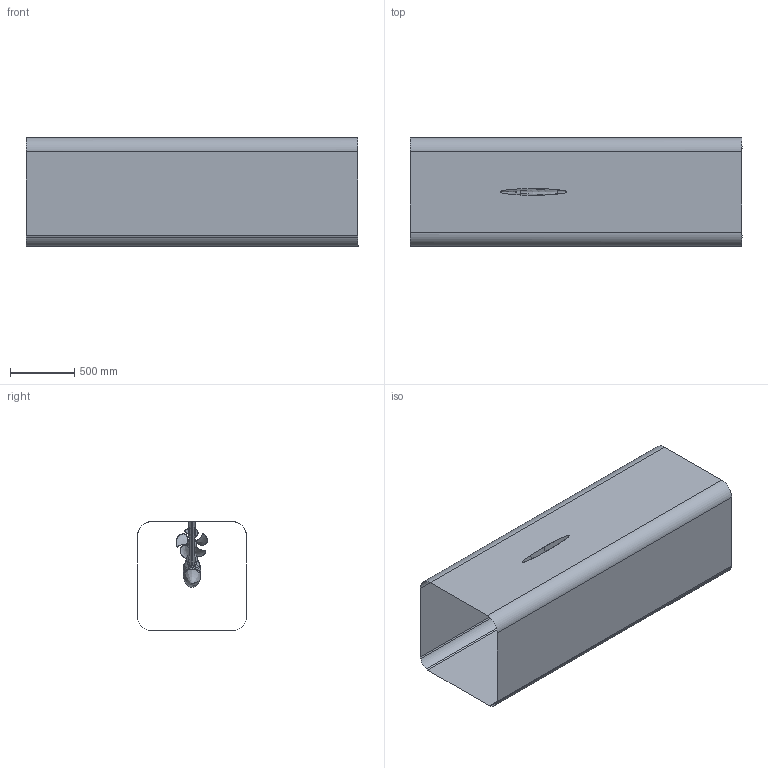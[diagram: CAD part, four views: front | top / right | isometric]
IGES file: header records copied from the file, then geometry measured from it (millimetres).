
Global section: file name: C:\Users\Barkmann.SVA-POTSDAM\Desktop\NX\PPTC_SMP15\Export\Case3\PPTC_SMP15.igs; native system: NX V9.0; preprocessor: SIEMENS PLM Software NX 9.0; author: Barkmann; organization: SVA-Potsdam; date: 20150205.152803; units: millimetre
Bounding box: 2593.5 x 850 x 850 mm (x, y, z)
Surface area: 9169171.8 mm2 (no closed solid volume)
Topology: 0 solids, 0 shells, 65 faces, 4768 edges, 4767 vertices
Faces by surface type: bspline 65
